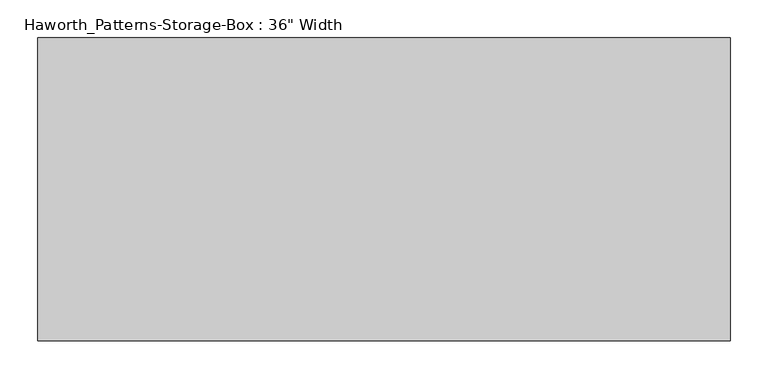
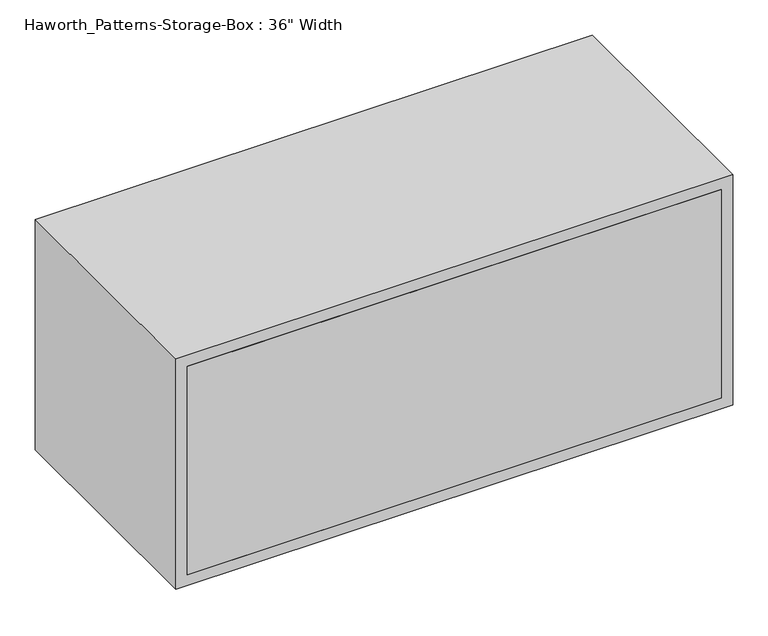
"""IFC4 building model written with IfcOpenShell, lengths in millimetres: furniture geometry."""

import ifcopenshell
import ifcopenshell.guid

model = None  # the IFC model being written
_history = None  # IfcOwnerHistory: only IFC2X3 demands one
_inside = {}  # id of a spatial element -> (the spatial element, [elements in it])
_under = {}  # id of a project, library or spatial element -> (it, [spatial elements below it])
_declared = {}  # id of a project -> (the project, [libraries it declares])
_typed = {}  # id of a type object -> (the type object, [elements of that type])
_made_of = {}  # id of a material, layer set ... -> (it, [elements and type objects made of it])


def new_model(schema):
    """Start an empty IFC model of exactly this schema.

    Asked for "IFC4X3", IfcOpenShell would pick the latest addendum, in which some entities
    have other attributes; the version numbers below select the first issue.
    IFC2X3 requires an IfcOwnerHistory on every rooted entity: one is made here for all.
    """
    global model, _history
    if schema == "IFC4X3":
        model = ifcopenshell.file(schema_version=(4, 3, 0, 0))
    else:
        model = ifcopenshell.file(schema=schema)
    _inside.clear()
    _under.clear()
    _declared.clear()
    _typed.clear()
    _made_of.clear()
    _history = None
    if model.schema == "IFC2X3":
        org = make("IfcOrganization", Name="unknown")
        user = make(
            "IfcPersonAndOrganization",
            ThePerson=make("IfcPerson", FamilyName="unknown"),
            TheOrganization=org,
        )
        app = make(
            "IfcApplication",
            ApplicationDeveloper=org,
            Version="unknown",
            ApplicationFullName="unknown",
            ApplicationIdentifier="unknown",
        )
        _history = make(
            "IfcOwnerHistory",
            OwningUser=user,
            OwningApplication=app,
            ChangeAction="ADDED",
            CreationDate=0,
        )
    return model


def make(cls, **values):
    """One entity of the class cls with the attributes given. An attribute that is None is left unset."""
    return model.create_entity(
        cls, **{name: value for name, value in values.items() if value is not None}
    )


def rooted(cls, **values):
    """An entity with a GlobalId (a new one), such as an element, a storey or a relation."""
    return make(cls, GlobalId=ifcopenshell.guid.new(), OwnerHistory=_history, **values)


def si_unit(unit_type, name, prefix=None):
    """IfcSIUnit, for example si_unit("LENGTHUNIT", "METRE", prefix="MILLI")."""
    return make("IfcSIUnit", UnitType=unit_type, Prefix=prefix, Name=name)


def assignment(units):
    """IfcUnitAssignment: the units of a project."""
    return None if units is None else make("IfcUnitAssignment", Units=units)


def point(xyz):
    """IfcCartesianPoint."""
    return None if xyz is None else make("IfcCartesianPoint", Coordinates=xyz)


def direction(xyz):
    """IfcDirection."""
    return None if xyz is None else make("IfcDirection", DirectionRatios=xyz)


def frame(location, z_axis=None, x_axis=None):
    """IfcAxis2Placement3D, a coordinate frame: its origin and axes. An axis left out is left unset."""
    return make(
        "IfcAxis2Placement3D",
        Location=point(location),
        Axis=direction(z_axis),
        RefDirection=direction(x_axis),
    )


def origin():
    """The frame at (0, 0, 0) with its axes left unset."""
    return frame((0.0, 0.0, 0.0))


def place(relative_to, where):
    """IfcLocalPlacement: puts the frame where relative to a parent placement (None: the world)."""
    return make(
        "IfcLocalPlacement", PlacementRelTo=relative_to, RelativePlacement=where
    )


def context(
    kind, dimensions, precision=None, world=None, true_north=None, identifier=None
):
    """IfcGeometricRepresentationContext, for example the 3D "Model" context."""
    return make(
        "IfcGeometricRepresentationContext",
        ContextIdentifier=identifier,
        ContextType=kind,
        CoordinateSpaceDimension=dimensions,
        Precision=precision,
        WorldCoordinateSystem=world,
        TrueNorth=true_north,
    )


def project(units=None, contexts=None):
    """IfcProject with its units and contexts."""
    return rooted(
        "IfcProject",
        Name="project",
        RepresentationContexts=contexts,
        UnitsInContext=assignment(units),
    )


def spatial(cls, under=None, at=None, **own):
    """A site, building, storey or space (cls), placed at a placement, below another one or the project."""
    s = rooted(cls, ObjectPlacement=at, **own)
    if under is not None:
        _under.setdefault(under.id(), (under, []))[1].append(s)
    return s


def polyline(points):
    """IfcPolyline through the points."""
    return make("IfcPolyline", Points=[point(p) for p in points])


def outline(outer, holes=None, kind="AREA"):
    """IfcArbitraryClosedProfileDef: a profile drawn as a closed curve; with holes, ...WithVoids."""
    if holes is None:
        return make("IfcArbitraryClosedProfileDef", ProfileType=kind, OuterCurve=outer)
    return make(
        "IfcArbitraryProfileDefWithVoids",
        ProfileType=kind,
        OuterCurve=outer,
        InnerCurves=holes,
    )


def extrude(swept, where, along, depth):
    """IfcExtrudedAreaSolid: the profile swept, set in the frame where, extruded along a direction by depth."""
    return make(
        "IfcExtrudedAreaSolid",
        SweptArea=swept,
        Position=where,
        ExtrudedDirection=direction(along),
        Depth=depth,
    )


def shape(context_of_items, identifier, shape_type, items):
    """IfcShapeRepresentation: the items that make up one representation, for example the "Body"."""
    return make(
        "IfcShapeRepresentation",
        ContextOfItems=context_of_items,
        RepresentationIdentifier=identifier,
        RepresentationType=shape_type,
        Items=items,
    )


def source(mapping_origin, context_of_items, identifier, shape_type, items):
    """IfcRepresentationMap: a shape defined once, which mapped items show again and again."""
    return make(
        "IfcRepresentationMap",
        MappingOrigin=mapping_origin,
        MappedRepresentation=shape(context_of_items, identifier, shape_type, items),
    )


def transform(
    local_origin,
    x_axis=None,
    y_axis=None,
    z_axis=None,
    scale=None,
    scale2=None,
    scale3=None,
    uniform=True,
):
    """IfcCartesianTransformationOperator3D, or its non-uniform kind. x_axis, y_axis, z_axis: its Axis1, 2, 3."""
    if uniform:
        return make(
            "IfcCartesianTransformationOperator3D",
            Axis1=direction(x_axis),
            Axis2=direction(y_axis),
            LocalOrigin=point(local_origin),
            Scale=scale,
            Axis3=direction(z_axis),
        )
    return make(
        "IfcCartesianTransformationOperator3DnonUniform",
        Axis1=direction(x_axis),
        Axis2=direction(y_axis),
        LocalOrigin=point(local_origin),
        Scale=scale,
        Axis3=direction(z_axis),
        Scale2=scale2,
        Scale3=scale3,
    )


def mapped(mapping_source, mapping_target):
    """IfcMappedItem: shows the shape of a source again, moved by a transform."""
    return make(
        "IfcMappedItem", MappingSource=mapping_source, MappingTarget=mapping_target
    )


def made_of(thing, what):
    """Note that an element or type object is made of a material, layer set ...; save() writes the relation."""
    if what is not None:
        _made_of.setdefault(what.id(), (what, []))[1].append(thing)
    return thing


def element(
    cls,
    number,
    at=None,
    inside=None,
    cuts=None,
    type_object=None,
    material=None,
    context=None,
    identifier="Body",
    shape_type=None,
    held_by="IfcProductDefinitionShape",
    body=None,
    shapes=None,
    **own,
):
    """One element of the class cls, such as IfcWall. Its Tag is "e" and its number.

    at: its placement. inside: the storey or other place that contains it. cuts: it is an
    opening in that element (IfcRelVoidsElement). A single representation is given by context,
    identifier, shape_type and body (its items); several are given by shapes. held_by: the class
    of the entity that holds the representations. save() writes the other relations.
    """
    e = rooted(cls, Tag="e%d" % number, ObjectPlacement=at, **own)
    if body is not None:
        shapes = [shape(context, identifier, shape_type, body)]
    if shapes is not None:
        e.Representation = make(held_by, Representations=shapes)
    if inside is not None:
        _inside.setdefault(inside.id(), (inside, []))[1].append(e)
    if cuts is not None:
        rooted(
            "IfcRelVoidsElement", RelatingBuildingElement=cuts, RelatedOpeningElement=e
        )
    if type_object is not None:
        _typed.setdefault(type_object.id(), (type_object, []))[1].append(e)
    return made_of(e, material)


def aggregate(whole, parts):
    """IfcRelAggregates: a whole, such as a stair, and the parts it consists of."""
    return rooted("IfcRelAggregates", RelatingObject=whole, RelatedObjects=parts)


def save(model, path):
    """Write the relations noted so far, then the file.

    IfcRelAggregates (storeys below a building ...), IfcRelContainedInSpatialStructure (elements
    in a storey), IfcRelDefinesByType, IfcRelAssociatesMaterial and IfcRelDeclares: one each for
    every whole, place, type object, material and project.
    """
    for whole, parts in _under.values():
        aggregate(whole, parts)
    for where, things in _inside.values():
        rooted(
            "IfcRelContainedInSpatialStructure",
            RelatedElements=things,
            RelatingStructure=where,
        )
    for kind, things in _typed.values():
        rooted("IfcRelDefinesByType", RelatedObjects=things, RelatingType=kind)
    for what, things in _made_of.values():
        rooted("IfcRelAssociatesMaterial", RelatedObjects=things, RelatingMaterial=what)
    for by, libraries in _declared.values():
        rooted("IfcRelDeclares", RelatingContext=by, RelatedDefinitions=libraries)
    model.write(path)


def furniture_aa3926b8(model_context):
    return source(origin(), model_context, "Body", "SweptSolid", [
        extrude(outline(polyline([(555.6250004, 387.3499879), (557.2124989, 374.65), (547.6875011, 374.65), (549.2749996, 387.3499879), (555.6250004, 387.3499879)])), frame((0.0, 0.0, 782.6375), z_axis=(0.0, 0.0, 1.0), x_axis=(1.0, 0.0, 0.0)), (0.0, 0.0, 1.0), 346.075),
        extrude(outline(polyline([(-219.0749996, 393.6999879), (-217.4875011, 381.0), (-227.0124989, 381.0), (-225.4250004, 393.6999879), (-219.0749996, 393.6999879)])), frame((0.0, 0.0, 782.6375), z_axis=(0.0, 0.0, 1.0), x_axis=(1.0, 0.0, 0.0)), (0.0, 0.0, 1.0), 346.075),
        extrude(outline(polyline([(-273.05, 374.65), (-273.05, 381.0), (177.8, 381.0), (177.8, 374.65), (-273.05, 374.65)])), frame((0.0, 0.0, 774.7), z_axis=(0.0, 0.0, 1.0), x_axis=(1.0, 0.0, 0.0)), (0.0, 0.0, 1.0), 361.95),
        extrude(outline(polyline([(152.4, 368.3), (152.4, 374.65), (603.25, 374.65), (603.25, 368.3), (152.4, 368.3)])), frame((0.0, 0.0, 774.7), z_axis=(0.0, 0.0, 1.0), x_axis=(1.0, 0.0, 0.0)), (0.0, 0.0, 1.0), 361.95),
        extrude(outline(polyline([(603.25, 19.05), (603.25, 0.0), (-273.05, 0.0), (-273.05, 19.05), (603.25, 19.05)])), frame((0.0, 0.0, 774.7), z_axis=(0.0, 0.0, 1.0), x_axis=(1.0, 0.0, 0.0)), (0.0, 0.0, 1.0), 361.95),
        extrude(outline(polyline([(755.65, 622.3), (1155.7, 622.3), (1155.7, -292.1), (755.65, -292.1), (755.65, 622.3)]), holes=[polyline([(1136.65, 603.25), (774.7, 603.25), (774.7, -273.05), (1136.65, -273.05), (1136.65, 603.25)])]), frame((0.0, 0.0, 0.0), z_axis=(0.0, 1.0, 0.0), x_axis=(0.0, 0.0, 1.0)), (0.0, 0.0, 1.0), 400.05),
        extrude(outline(polyline([(-238.125, 346.075), (568.325, 346.075), (568.325, 53.975), (-238.125, 53.975), (-238.125, 346.075)])), frame((0.0, 0.0, 736.6), z_axis=(0.0, 0.0, 1.0), x_axis=(1.0, 0.0, 0.0)), (0.0, 0.0, 1.0), 19.05),
    ])


if __name__ == "__main__":
    model = new_model("IFC4")
    model_context = context("Model", 3, world=origin())
    ifc_project = project(units=[si_unit("LENGTHUNIT", "METRE", prefix="MILLI")], contexts=[model_context])
    site = spatial("IfcSite", under=ifc_project)
    building = spatial("IfcBuilding", under=site)
    placement = place(None, origin())
    furniture_shape = furniture_aa3926b8(model_context)
    element("IfcFurniture", 1, ObjectType="Haworth_Patterns-Storage-Box : 36\" Width", at=placement, inside=building, context=model_context, shape_type="MappedRepresentation", body=[
        mapped(furniture_shape, transform((0.0, 0.0, 0.0), x_axis=(1.0, 0.0, 0.0), y_axis=(0.0, 1.0, 0.0), z_axis=(0.0, 0.0, 1.0))),
    ])
    save(model, "model.ifc")
